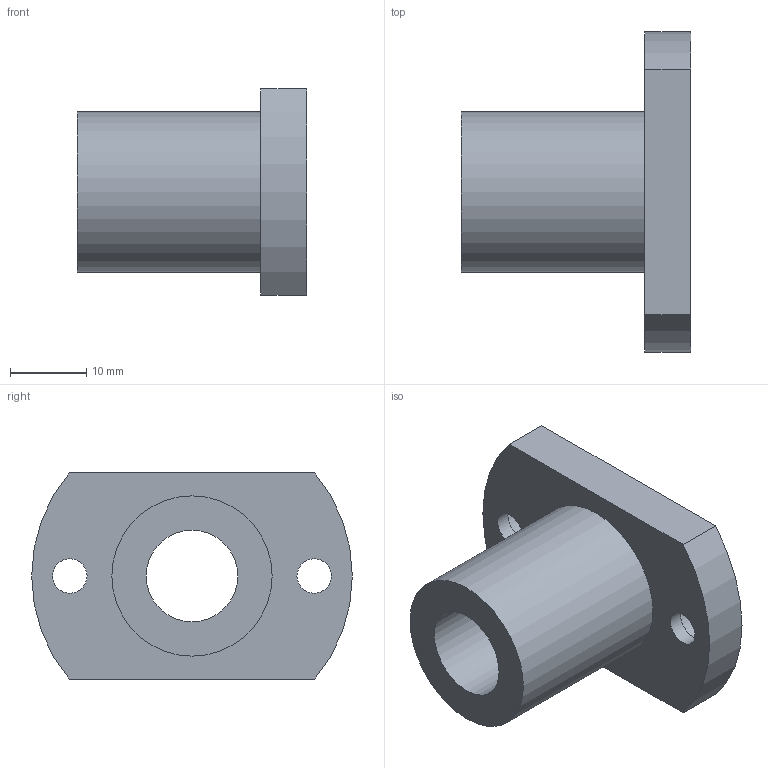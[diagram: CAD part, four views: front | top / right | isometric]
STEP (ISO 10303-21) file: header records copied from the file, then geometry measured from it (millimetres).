
FILE_DESCRIPTION(/* description */ ('Unknown'),/* implementation_level */ '2;1');
FILE_NAME(/* name */ 'LMH12UU',/* time_stamp */ '2025-02-03T14:06:18+08:00',/* author */ ('Unknown'),/* organization */ ('Unknown'),/* preprocessor_version */ 'ST-DEVELOPER v18.102',/* originating_system */ 'Solid Edge',/* authorisation */ 'Unknown');
FILE_SCHEMA (('AUTOMOTIVE_DESIGN {1 0 10303 214 3 1 1}'));
Length unit declared in the file: millimetre
Products named in the file (1): LMH12UU
Bounding box: 30 x 42 x 27 mm (x, y, z)
Volume: 10797.9 mm3; surface area: 5509.7 mm2
Topology: 1 solids, 1 shells, 15 faces, 30 edges, 20 vertices
Faces by surface type: cylinder 8, plane 7
Full cylindrical faces by diameter (mm): 4.5 x2, 7.5 x2, 12 x1, 21 x1
Entity records: 412 total; most frequent: DIRECTION 72, CARTESIAN_POINT 60, ORIENTED_EDGE 48, AXIS2_PLACEMENT_3D 32, EDGE_LOOP 30, FACE_BOUND 30, EDGE_CURVE 24, VERTEX_POINT 20
